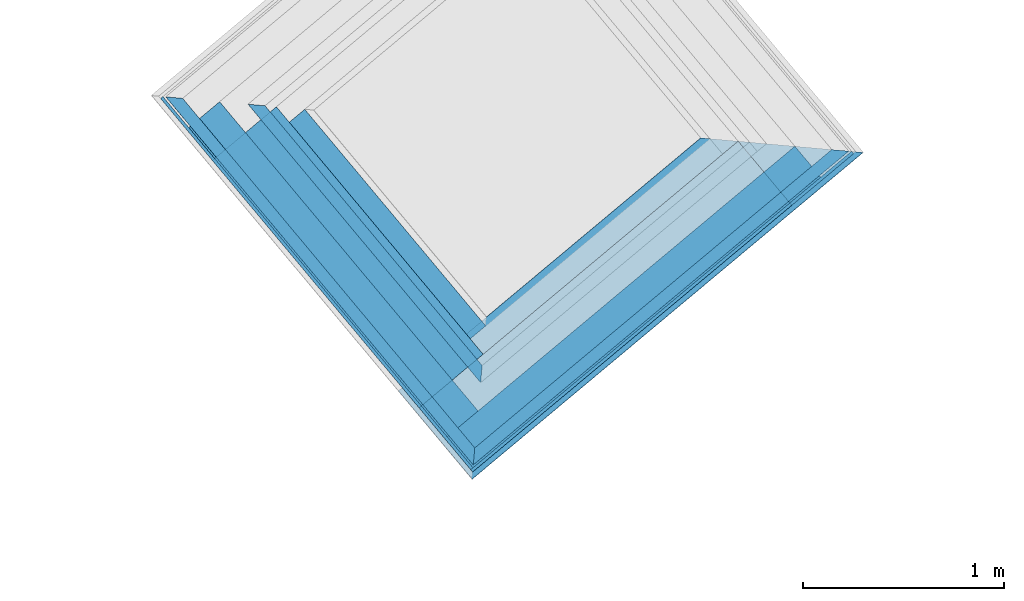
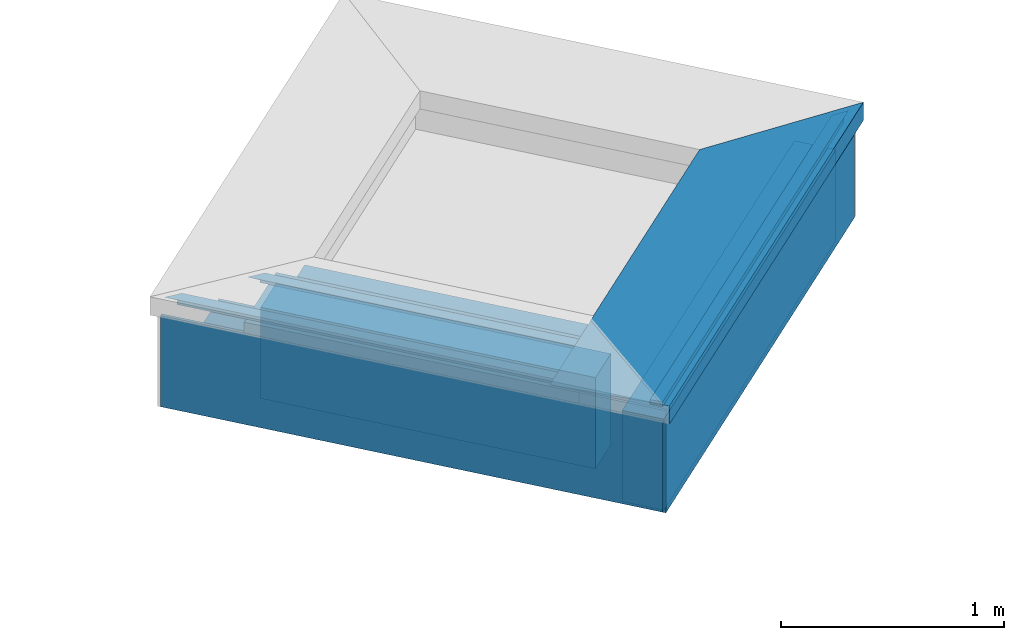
# One storey, part 9 of 13: 13 building element parts, 2 elements without a shape of their own.
"""IFC4 building model written with IfcOpenShell, lengths in metres."""

from ifc_helpers import new_model, entity, si_unit, converted_unit, derived_unit, direction, frame, origin_with_axes, place, context, subcontext, project, spatial, polygons, material, type_object, element, aggregate, save


model = new_model("IFC4")

# Units and contexts
model_context = context("Model", 3, precision=1e-05, world=origin_with_axes(), true_north=direction((0.0, 1.0)))
body_context = subcontext(model_context, "Body", "Model", "MODEL_VIEW")
ifc_project = project(units=[si_unit("LENGTHUNIT", "METRE"), si_unit("AREAUNIT", "SQUARE_METRE"), si_unit("VOLUMEUNIT", "CUBIC_METRE"), converted_unit("PLANEANGLEUNIT", "DEGREE", entity("IfcPlaneAngleMeasure", 0.0174532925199), si_unit("PLANEANGLEUNIT", "RADIAN"), dimensions=[0, 0, 0, 0, 0, 0, 0]), converted_unit("TIMEUNIT", "Year", entity("IfcTimeMeasure", 31556926.0), si_unit("TIMEUNIT", "SECOND"), dimensions=[0, 0, 1, 0, 0, 0, 0]), si_unit("MASSUNIT", "GRAM", prefix="KILO"), si_unit("THERMODYNAMICTEMPERATUREUNIT", "DEGREE_CELSIUS"), si_unit("LUMINOUSINTENSITYUNIT", "LUMEN"), si_unit("ENERGYUNIT", "JOULE", prefix="MEGA"), derived_unit("THERMALCONDUCTANCEUNIT", [(si_unit("POWERUNIT", "WATT"), 1), (si_unit("LENGTHUNIT", "METRE"), -1), (si_unit("THERMODYNAMICTEMPERATUREUNIT", "KELVIN"), -1)]), derived_unit("SPECIFICHEATCAPACITYUNIT", [(si_unit("ENERGYUNIT", "JOULE"), 1), (si_unit("MASSUNIT", "GRAM", prefix="KILO"), -1), (si_unit("THERMODYNAMICTEMPERATUREUNIT", "KELVIN"), -1)]), derived_unit("MASSDENSITYUNIT", [(si_unit("MASSUNIT", "GRAM", prefix="KILO"), 1), (si_unit("VOLUMEUNIT", "CUBIC_METRE"), -1)])], contexts=[model_context])

# Site, building, storey
site_placement = place(None, frame((-0.00153261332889, -0.00661245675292, 0.0), z_axis=(0.0, 0.0, 1.0), x_axis=(1.0, 0.0, 0.0)))
site = spatial("IfcSite", under=ifc_project, at=site_placement, Name="Gelände", CompositionType="ELEMENT")
building_placement = place(site_placement, origin_with_axes())
building = spatial("IfcBuilding", under=site, at=building_placement, Name="Gebäude", CompositionType="ELEMENT")
storey_placement = place(building_placement, frame((0.0, 0.0, 11.84), z_axis=(0.0, 0.0, 1.0), x_axis=(1.0, 0.0, 0.0)))
storey = spatial("IfcBuildingStorey", under=building, at=storey_placement, Name="DA", CompositionType="ELEMENT", Elevation=11.84)

# Wall, building element parts
wall_type = type_object("IfcWallType", Name="Bauteil - Attika 574 x 610", PredefinedType="NOTDEFINED")
wall_1_placement = place(storey_placement, frame((1.33818690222, 24.5040825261, 0.96), z_axis=(0.0, 0.0, 1.0), x_axis=(0.767364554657, 0.641211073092, 0.0)))
wall_1 = element("IfcWall", 1, at=wall_1_placement, inside=storey, type_object=wall_type, Name="Wand-002", PredefinedType="NOTDEFINED")
ifc_material_1 = material(Name="Stahl")
building_element_part_1_placement = place(wall_1_placement, origin_with_axes())
building_element_part_1 = element("IfcBuildingElementPart", 2, at=building_element_part_1_placement, material=ifc_material_1, Name="Stahl", PredefinedType="NOTDEFINED", context=body_context, shape_type="Tessellation", body=[
    polygons([(-0.241515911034, -0.241500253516, 0.510007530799), (-0.241515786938, -0.239585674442, 0.510007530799), (-0.240558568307, -0.240542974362, 0.509050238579), (-0.241515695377, -0.238231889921, 0.51136132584), (-0.241515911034, -0.241500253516, 0.610006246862), (-0.241513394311, -0.202730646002, 0.608602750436), (-0.241515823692, -0.240152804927, 0.608602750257), (-0.24151582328, -0.240146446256, 0.51136132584), (-0.240161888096, -0.238231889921, 0.51136132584), (-0.233302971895, -0.23137340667, 0.518219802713), (2.28105556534, -0.23137340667, 0.518219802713), (2.2879140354, -0.238231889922, 0.511361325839), (2.29022512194, -0.240542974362, 0.509050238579), (2.28926782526, -0.241500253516, 0.510007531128), (2.28791402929, -0.241500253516, 0.511361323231), (2.28982858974, -0.241500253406, 0.51136132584), (2.28982910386, -0.241500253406, 0.519224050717), (2.28983177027, -0.241500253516, 0.559999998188), (2.28983228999, -0.241500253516, 0.567947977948), (2.28983267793, -0.241500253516, 0.573880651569), (2.28983281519, -0.241500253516, 0.575979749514), (2.28983334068, -0.241500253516, 0.584015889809), (2.28983347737, -0.241500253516, 0.586106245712), (2.28983359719, -0.241500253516, 0.587938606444), (2.28983494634, -0.241500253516, 0.608570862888), (2.2898349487, -0.241500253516, 0.608602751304), (2.25241278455, -0.241500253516, 0.608602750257), (2.29118240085, -0.241500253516, 0.610006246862), (-0.239289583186, -0.201849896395, 0.608570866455), (-0.240165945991, -0.202730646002, 0.608602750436), (2.25241285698, -0.202730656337, 0.608602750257), (2.25153201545, -0.201849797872, 0.608570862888), (1.7176313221, 0.332051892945, 0.589243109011), (0.294682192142, 0.332051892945, 0.589243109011), (-0.240168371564, -0.240152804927, 0.608602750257), (-0.240162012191, -0.24014644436, 0.511361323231), (2.25241278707, -0.240152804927, 0.608602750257), (2.28983495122, -0.240152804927, 0.608602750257), (2.28983494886, -0.240152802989, 0.608570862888), (2.28983359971, -0.240151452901, 0.587938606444), (2.28983347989, -0.240151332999, 0.586106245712), (2.2898333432, -0.240151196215, 0.584015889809), (2.28983281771, -0.240150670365, 0.575979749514), (2.28983268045, -0.240150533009, 0.573880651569), (2.28983229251, -0.2401501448, 0.567947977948), (2.28983177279, -0.240149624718, 0.559999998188), (2.28982910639, -0.240146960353, 0.519224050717), (2.28982859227, -0.24014644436, 0.511361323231), (2.28791403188, -0.24014644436, 0.511361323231), (-0.232298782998, -0.23228372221, 0.519224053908), (2.28196588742, -0.23228372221, 0.519224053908), (2.28105556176, -0.233287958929, 0.518219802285), (-0.239292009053, -0.239276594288, 0.608570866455), (2.25153194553, -0.239276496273, 0.608570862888), (1.71763125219, 0.294630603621, 0.589243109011), (0.330719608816, 0.332051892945, 0.587938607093), (1.7176313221, 0.332051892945, 0.587938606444), (1.7176313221, 0.332051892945, 0.586106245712), (1.7176313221, 0.332051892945, 0.584015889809), (1.7176313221, 0.332051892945, 0.575979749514), (1.7176313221, 0.332051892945, 0.573880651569), (1.7176313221, 0.332051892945, 0.567947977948), (1.7176313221, 0.332051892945, 0.560000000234), (1.7176313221, 0.332051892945, 0.519224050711), (1.7176313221, 0.332051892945, 0.51136132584), (1.7176313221, 0.332051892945, 0.509050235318), (1.7176313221, 0.332051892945, 0.499999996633), (1.7176313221, 0.332051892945, 0.498822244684), (1.7176313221, 0.332051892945, 0.491006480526), (1.71763132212, 0.332051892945, 0.489652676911), (0.330158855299, 0.332051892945, 0.489652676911), (0.328805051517, 0.332051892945, 0.491006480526), (0.330719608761, 0.332051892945, 0.491006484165), (0.330719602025, 0.332051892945, 0.498822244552), (0.330719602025, 0.332051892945, 0.499999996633), (0.330719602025, 0.332051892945, 0.509050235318), (0.330719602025, 0.332051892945, 0.51136132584), (0.330719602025, 0.332051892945, 0.519224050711), (0.330719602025, 0.332051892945, 0.56000000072), (0.330719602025, 0.332051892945, 0.56794797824), (0.330719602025, 0.332051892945, 0.57388065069), (0.330719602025, 0.332051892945, 0.575979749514), (0.330719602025, 0.332051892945, 0.584015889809), (0.330719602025, 0.332051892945, 0.586106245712), (0.330719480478, 0.330698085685, 0.587937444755), (0.330719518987, 0.330665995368, 0.587938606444), (1.71763131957, 0.330698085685, 0.587937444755), (1.71763131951, 0.330665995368, 0.587938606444), (1.71763131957, 0.330698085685, 0.586106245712), (1.71763131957, 0.330698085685, 0.584015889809), (1.71763131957, 0.330698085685, 0.575979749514), (1.71763131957, 0.330698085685, 0.573880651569), (1.71763131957, 0.330698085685, 0.567947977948), (1.71763131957, 0.330698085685, 0.560000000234), (1.71763131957, 0.330698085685, 0.519224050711), (1.71763131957, 0.330698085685, 0.51136132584), (1.71763131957, 0.330698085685, 0.509050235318), (1.71763131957, 0.330698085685, 0.499999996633), (1.71763131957, 0.330698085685, 0.498822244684), (1.71763131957, 0.330698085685, 0.491006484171), (1.71763131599, 0.32878353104, 0.491006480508), (1.71763131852, 0.33013733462, 0.489652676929), (0.331116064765, 0.331094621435, 0.4886954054), (1.71858859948, 0.331094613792, 0.488695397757), (0.328804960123, 0.330698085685, 0.491006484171), (0.328804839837, 0.328783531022, 0.491006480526), (0.330719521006, 0.330698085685, 0.491006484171), (0.330719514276, 0.330698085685, 0.498822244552), (0.330719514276, 0.330698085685, 0.499999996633), (0.330719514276, 0.330698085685, 0.509050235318), (0.330719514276, 0.330698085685, 0.51136132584), (0.330719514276, 0.330698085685, 0.519224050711), (0.330719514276, 0.330698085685, 0.56000000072), (0.330719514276, 0.330698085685, 0.56794797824), (0.330719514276, 0.330698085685, 0.57388065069), (0.330719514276, 0.330698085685, 0.575979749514), (0.330719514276, 0.330698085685, 0.584015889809), (0.330719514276, 0.330698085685, 0.586106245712), (1.71898512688, 0.33069808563, 0.491006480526), (1.71898512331, 0.328783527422, 0.491006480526), (0.321898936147, 0.32187807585, 0.497911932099), (1.72589055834, 0.32187807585, 0.497911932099), (0.321899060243, 0.323792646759, 0.497911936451), (0.322903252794, 0.322882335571, 0.498822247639), (1.7268008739, 0.322882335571, 0.498822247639)], [[[1, 2, 3]], [[4, 2, 1, 5, 6, 7, 8]], [[2, 4, 9, 10, 11, 12, 13, 3]], [[1, 3, 13, 14]], [[5, 1, 14, 15, 16, 17, 18, 19, 20, 21, 22, 23, 24, 25, 26, 27, 28]], [[29, 30, 6, 5, 28, 31, 32, 33, 34]], [[35, 7, 6, 30]], [[36, 8, 7, 35, 37, 38, 39, 40, 41, 42, 43, 44, 45, 46, 47, 48, 49]], [[8, 36, 9, 4]], [[9, 36, 50, 10]], [[10, 50, 51, 11]], [[49, 12, 11, 52]], [[49, 15, 14, 13, 12]], [[15, 49, 48, 16]], [[17, 16, 48, 47]], [[18, 17, 47, 46]], [[19, 18, 46, 45]], [[20, 19, 45, 44]], [[21, 20, 44, 43]], [[21, 43, 42, 22]], [[22, 42, 41, 23]], [[41, 40, 24, 23]], [[24, 40, 39, 25]], [[25, 39, 38, 26]], [[37, 27, 26, 38]], [[27, 37, 31, 28]], [[53, 35, 30, 29]], [[37, 54, 32, 31]], [[32, 54, 55, 33]], [[56, 34, 33, 57, 58, 59, 60, 61, 62, 63, 64, 65, 66, 67, 68, 69, 70, 71, 72, 73, 74, 75, 76, 77, 78, 79, 80, 81, 82, 83, 84]], [[34, 56, 85, 86, 53, 29]], [[35, 53, 54, 37]], [[50, 36, 49, 52, 51]], [[52, 11, 51]], [[53, 86, 85, 87, 88, 55, 54]], [[88, 87, 57, 33, 55]], [[89, 58, 57, 87]], [[90, 59, 58, 89]], [[91, 60, 59, 90]], [[92, 61, 60, 91]], [[93, 62, 61, 92]], [[94, 63, 62, 93]], [[94, 95, 64, 63]], [[95, 96, 65, 64]], [[96, 97, 66, 65]], [[97, 98, 67, 66]], [[98, 99, 68, 67]], [[99, 100, 69, 68]], [[100, 101, 102, 70, 69]], [[103, 71, 70, 104]], [[105, 72, 71, 103, 106]], [[72, 105, 107, 73]], [[108, 74, 73, 107]], [[75, 74, 108, 109]], [[109, 110, 76, 75]], [[110, 111, 77, 76]], [[111, 112, 78, 77]], [[112, 113, 79, 78]], [[80, 79, 113, 114]], [[81, 80, 114, 115]], [[82, 81, 115, 116]], [[83, 82, 116, 117]], [[84, 83, 117, 118]], [[85, 56, 84, 118]], [[109, 108, 107, 100, 99, 98, 97, 96, 95, 94, 93, 92, 91, 90, 89, 87, 85, 118, 117, 116, 115, 114, 113, 112, 111, 110]], [[101, 100, 119, 120]], [[121, 106, 103, 104, 102, 101, 120, 122]], [[70, 102, 104]], [[121, 123, 105, 106]], [[105, 123, 124, 125, 119, 100, 107]], [[122, 120, 119, 125]], [[124, 121, 122, 125]], [[123, 121, 124]]], closed=True),
])
ifc_material_2 = material(Name="Holzwerkstoff")
building_element_part_2_placement = place(wall_1_placement, origin_with_axes())
building_element_part_2 = element("IfcBuildingElementPart", 3, at=building_element_part_2_placement, material=ifc_material_2, Name="Holzwerkstoff", PredefinedType="NOTDEFINED", context=body_context, shape_type="Tessellation", body=[
    polygons([(-0.130133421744, -0.130124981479, 0.584015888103), (-0.189997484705, -0.189984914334, 0.586106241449), (-0.18996373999, 0.330634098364, 0.586106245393), (-0.130103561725, 0.330561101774, 0.584015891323), (1.71912124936, -0.130124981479, 0.584015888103), (1.71904814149, -0.189984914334, 0.586106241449), (-0.240015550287, -0.239999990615, 0.587852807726), (-0.239978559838, 0.330695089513, 0.587852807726), (-0.239975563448, 0.330698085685, 0.587938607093), (1.71898512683, 0.330698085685, 0.587938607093), (1.71904911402, 0.330634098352, 0.586106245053), (1.71912210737, 0.330561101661, 0.584015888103), (1.71940273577, 0.330280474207, 0.575979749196), (1.71947603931, 0.330207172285, 0.573880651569), (1.71968324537, 0.329999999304, 0.567947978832), (0.330021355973, 0.329999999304, 0.567947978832), (0.160131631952, 0.330207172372, 0.573880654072), (0.100021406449, 0.330280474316, 0.575979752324), (0.100006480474, 0.0999999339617, 0.575979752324), (1.71940230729, 0.100000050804, 0.575979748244), (1.71898705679, -0.239999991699, 0.587852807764), (-0.24001255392, -0.239996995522, 0.587938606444), (-0.239292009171, -0.239276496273, 0.608570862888), (2.28895854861, -0.239276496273, 0.608570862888), (1.71898406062, -0.2399969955, 0.587938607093), (1.71947572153, 0.160110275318, 0.573880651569), (0.16012060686, 0.160110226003, 0.573880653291)], [[[1, 2, 3, 4]], [[2, 1, 5, 6]], [[2, 7, 8, 3]], [[3, 8, 9, 10, 11, 12, 13, 14, 15, 16, 17, 18, 4]], [[4, 18, 19, 1]], [[19, 20, 5, 1]], [[12, 11, 6, 5]], [[7, 2, 6, 21]], [[7, 22, 9, 8]], [[9, 23, 24, 10]], [[11, 10, 25, 21, 6]], [[13, 12, 5, 20]], [[26, 14, 13, 20]], [[26, 15, 14]], [[27, 16, 15, 26]], [[17, 16, 27]], [[18, 17, 27, 19]], [[19, 27, 26, 20]], [[22, 7, 21, 25, 24, 23]], [[22, 23, 9]], [[24, 25, 10]]], closed=True),
])
ifc_material_3 = material(Name="Brettschichtholz")
building_element_part_3_placement = place(wall_1_placement, origin_with_axes())
building_element_part_3 = element("IfcBuildingElementPart", 4, at=building_element_part_3_placement, material=ifc_material_3, Name="Brettschichtholz", PredefinedType="NOTDEFINED", context=body_context, shape_type="Tessellation", body=[
    polygons([(-0.21501230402, -0.190124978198, 0.560000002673), (-0.21501391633, -0.214999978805, 0.560000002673), (1.84968219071, -0.214999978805, 0.560000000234), (1.84968223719, -0.190124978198, 0.560000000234), (-0.215013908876, -0.214999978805, 0.519224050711), (-0.21500841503, -0.130124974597, 0.560000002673), (-0.214993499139, 0.0999999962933, 0.560000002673), (-0.214989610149, 0.159999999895, 0.560000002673), (-0.21498701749, 0.200000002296, 0.560000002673), (-0.214987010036, 0.200000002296, 0.519224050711), (-0.215013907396, -0.214999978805, 0.51136132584), (-0.215013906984, -0.214999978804, 0.509050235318), (-0.215013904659, -0.214999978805, 0.50000001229), (1.84968219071, -0.214999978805, 0.499999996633), (1.84968219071, -0.214999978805, 0.509050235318), (1.84968219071, -0.214999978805, 0.51136132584), (1.84968219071, -0.214999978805, 0.519224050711), (1.84968296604, 0.200000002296, 0.519224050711), (1.84968296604, 0.200000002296, 0.560000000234), (1.84968289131, 0.159999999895, 0.560000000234), (1.84968277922, 0.0999999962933, 0.560000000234), (1.84968234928, -0.130124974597, 0.560000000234), (1.84968296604, 0.200000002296, 0.51136132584), (1.84968296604, 0.200000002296, 0.509050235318), (1.84968296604, 0.200000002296, 0.499999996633), (-0.214987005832, 0.200000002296, 0.50000001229), (-0.214987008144, 0.200000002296, 0.509050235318), (-0.214987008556, 0.200000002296, 0.51136132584)], [[[1, 2, 3, 4]], [[5, 2, 1, 6, 7, 8, 9, 10]], [[2, 5, 11, 12, 13, 14, 15, 16, 17, 3]], [[4, 3, 17, 18, 19, 20, 21, 22]], [[6, 1, 4, 22]], [[7, 6, 22, 21]], [[8, 7, 21, 20]], [[9, 8, 20, 19]], [[10, 9, 19, 18, 23, 24, 25, 26, 27, 28]], [[5, 10, 28, 11]], [[11, 28, 27, 12]], [[12, 27, 26, 13]], [[25, 14, 13, 26]], [[24, 15, 14, 25]], [[23, 16, 15, 24]], [[18, 17, 16, 23]]], closed=True),
])
ifc_material_4 = material(Name="EPS 1")
building_element_part_4_placement = place(wall_1_placement, origin_with_axes())
building_element_part_4 = element("IfcBuildingElementPart", 5, at=building_element_part_4_placement, material=ifc_material_4, Name="EPS 1", PredefinedType="NOTDEFINED", context=body_context, shape_type="Tessellation", body=[
    polygons([(-0.199999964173, 2.16659046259e-09, 0.5), (-0.200012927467, -0.19999996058, 0.5), (2.04968221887, -0.19999996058, 0.5), (2.04968259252, 2.16659401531e-09, 0.5), (-0.200012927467, -0.19999996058, 0.498822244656), (-0.199999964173, 2.16659046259e-09, 0.498822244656), (-0.200012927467, -0.19999996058, 0.491006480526), (-0.200012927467, -0.19999996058, 0.488695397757), (-0.200012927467, -0.19999996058, 0.235000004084), (-0.200012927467, -0.19999996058, 0.0), (2.04968221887, -0.19999996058, 0.0), (2.04968221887, -0.19999996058, 0.235000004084), (2.04968221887, -0.19999996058, 0.488695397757), (2.04968221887, -0.19999996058, 0.491006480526), (2.04968221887, -0.19999996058, 0.498822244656), (2.04968259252, 2.16658690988e-09, 0.498822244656), (2.04968259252, 2.16658690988e-09, 0.491006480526), (2.04968259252, 2.16658690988e-09, 0.488695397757), (2.04968259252, 2.16658690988e-09, 0.235000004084), (2.04968259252, 2.16659401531e-09, 0.0), (-0.199999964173, 2.16659046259e-09, 0.0), (-0.199999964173, 2.16659046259e-09, 0.235000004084), (-0.199999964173, 2.16659046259e-09, 0.488695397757), (-0.199999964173, 2.16659046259e-09, 0.491006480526)], [[[1, 2, 3, 4]], [[5, 2, 1, 6]], [[2, 5, 7, 8, 9, 10, 11, 12, 13, 14, 15, 3]], [[4, 3, 15, 16]], [[6, 1, 4, 16, 17, 18, 19, 20, 21, 22, 23, 24]], [[5, 6, 24, 7]], [[7, 24, 23, 8]], [[8, 23, 22, 9]], [[9, 22, 21, 10]], [[10, 21, 20, 11]], [[19, 12, 11, 20]], [[18, 13, 12, 19]], [[17, 14, 13, 18]], [[16, 15, 14, 17]]], closed=True),
])
ifc_material_5 = material(Name="Vollholz")
building_element_part_5_placement = place(wall_1_placement, origin_with_axes())
building_element_part_5 = element("IfcBuildingElementPart", 6, at=building_element_part_5_placement, material=ifc_material_5, Name="Vollholz", PredefinedType="NOTDEFINED", context=body_context, shape_type="Tessellation", body=[
    polygons([(-0.190137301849, -0.190124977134, 0.560000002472), (-0.190094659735, -0.19008233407, 0.567947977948), (-0.19009077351, -0.130124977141, 0.567947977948), (-0.19013341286, -0.130124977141, 0.560000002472), (2.17980721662, -0.190124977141, 0.560000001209), (2.1798072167, -0.19008233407, 0.567947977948), (2.17980721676, -0.190050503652, 0.573880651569), (2.17980721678, -0.190039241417, 0.575979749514), (2.17980721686, -0.189996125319, 0.584015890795), (2.23966714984, -0.189984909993, 0.586106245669), (-0.189997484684, -0.189984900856, 0.586106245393), (-0.190008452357, -0.189996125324, 0.584015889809), (-0.190051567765, -0.190039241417, 0.575979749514), (-0.190062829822, -0.190050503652, 0.573880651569), (-0.19005894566, -0.130124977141, 0.573880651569), (-0.190047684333, -0.130124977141, 0.575979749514), (-0.190004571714, -0.130124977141, 0.584015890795), (2.17980732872, -0.130124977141, 0.584015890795), (2.17980732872, -0.130124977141, 0.575979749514), (2.17980732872, -0.130124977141, 0.573880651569), (2.17980732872, -0.130124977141, 0.567947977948), (2.17980732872, -0.130124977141, 0.560000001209)], [[[1, 2, 3, 4]], [[2, 1, 5, 6, 7, 8, 9, 10, 11, 12, 13, 14]], [[2, 14, 15, 3]], [[4, 3, 15, 16, 17, 18, 19, 20, 21, 22]], [[1, 4, 22, 5]], [[22, 21, 6, 5]], [[21, 20, 7, 6]], [[20, 19, 8, 7]], [[9, 8, 19, 18]], [[9, 18, 10]], [[17, 11, 10, 18]], [[17, 12, 11]], [[16, 13, 12, 17]], [[15, 14, 13, 16]]], closed=True),
])
ifc_material_6 = material(Name="Zementputz")
building_element_part_6_placement = place(wall_1_placement, origin_with_axes())
building_element_part_6 = element("IfcBuildingElementPart", 7, at=building_element_part_6_placement, material=ifc_material_6, Name="Zementputz", PredefinedType="NOTDEFINED", context=body_context, shape_type="Tessellation", body=[
    polygons([(2.24968215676, -0.214999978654, 0.498822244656), (2.24968215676, -0.214999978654, 0.5), (-0.215013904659, -0.214999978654, 0.50000001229), (-0.215013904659, -0.214999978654, 0.0), (2.24968215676, -0.214999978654, 0.0), (2.24968215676, -0.214999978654, 0.235000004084), (2.24968215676, -0.214999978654, 0.488695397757), (2.24968215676, -0.214999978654, 0.491006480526), (2.24968218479, -0.199999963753, 0.5), (2.24968218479, -0.199999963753, 0.498822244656), (-0.215012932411, -0.199999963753, 0.50000001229), (-0.215012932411, -0.199999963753, 0.0), (2.24968218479, -0.199999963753, 0.0), (2.24968218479, -0.199999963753, 0.235000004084), (2.24968218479, -0.199999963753, 0.488695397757), (2.24968218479, -0.199999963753, 0.491006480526)], [[[1, 2, 3, 4, 5, 6, 7, 8]], [[9, 2, 1, 10]], [[2, 9, 11, 3]], [[12, 4, 3, 11]], [[13, 5, 4, 12]], [[14, 6, 5, 13]], [[15, 7, 6, 14]], [[16, 8, 7, 15]], [[10, 1, 8, 16]], [[9, 10, 16, 15, 14, 13, 12, 11]]], closed=True),
])
aggregate(wall_1, [building_element_part_1, building_element_part_2, building_element_part_3, building_element_part_4, building_element_part_5, building_element_part_6])

wall_2_placement = place(storey_placement, frame((1.33818690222, 24.5040825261, 0.96), z_axis=(0.0, 0.0, 1.0), x_axis=(-0.641161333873, 0.767406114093, 0.0)))
wall_2 = element("IfcWall", 8, at=wall_2_placement, inside=storey, type_object=wall_type, Name="Wand-002", PredefinedType="NOTDEFINED")
building_element_part_7_placement = place(wall_2_placement, origin_with_axes())
building_element_part_7 = element("IfcBuildingElementPart", 9, at=building_element_part_7_placement, material=ifc_material_6, Name="Zementputz", PredefinedType="NOTDEFINED", context=body_context, shape_type="Tessellation", body=[
    polygons([(-0.200013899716, 0.214999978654, 0.5), (-0.200012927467, 0.199999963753, 0.5), (2.2011356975, 0.199999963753, 0.5), (2.20113475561, 0.214999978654, 0.5), (-0.200012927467, 0.199999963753, 0.498822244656), (-0.200013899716, 0.214999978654, 0.498822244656), (-0.200012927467, 0.199999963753, 0.491006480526), (-0.200012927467, 0.199999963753, 0.488695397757), (-0.200012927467, 0.199999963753, 0.235000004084), (-0.200012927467, 0.199999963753, 0.0), (2.2011356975, 0.199999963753, 0.0), (2.2011356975, 0.199999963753, 0.235000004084), (2.2011356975, 0.199999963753, 0.488695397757), (2.2011356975, 0.199999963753, 0.491006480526), (2.2011356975, 0.199999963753, 0.498822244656), (2.20113475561, 0.214999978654, 0.498822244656), (2.20113475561, 0.214999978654, 0.491006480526), (2.20113475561, 0.214999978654, 0.488695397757), (2.20113475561, 0.214999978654, 0.235000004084), (2.20113475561, 0.214999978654, 0.0), (-0.200013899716, 0.214999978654, 0.0), (-0.200013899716, 0.214999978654, 0.235000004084), (-0.200013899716, 0.214999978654, 0.488695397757), (-0.200013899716, 0.214999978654, 0.491006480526)], [[[1, 2, 3, 4]], [[5, 2, 1, 6]], [[2, 5, 7, 8, 9, 10, 11, 12, 13, 14, 15, 3]], [[4, 3, 15, 16]], [[6, 1, 4, 16, 17, 18, 19, 20, 21, 22, 23, 24]], [[5, 6, 24, 7]], [[7, 24, 23, 8]], [[8, 23, 22, 9]], [[9, 22, 21, 10]], [[10, 21, 20, 11]], [[19, 12, 11, 20]], [[18, 13, 12, 19]], [[17, 14, 13, 18]], [[16, 15, 14, 17]]], closed=True),
])
building_element_part_8_placement = place(wall_2_placement, origin_with_axes())
building_element_part_8 = element("IfcBuildingElementPart", 10, at=building_element_part_8_placement, material=ifc_material_5, Name="Vollholz", PredefinedType="NOTDEFINED", context=body_context, shape_type="Tessellation", body=[
    polygons([(2.13126133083, 0.190124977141, 0.560000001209), (2.13126509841, 0.130124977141, 0.560000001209), (-0.130133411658, 0.130124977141, 0.560000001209), (-0.130137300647, 0.190124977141, 0.560000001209), (2.13126133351, 0.19008233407, 0.567947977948), (2.13126509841, 0.130124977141, 0.567947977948), (2.13126509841, 0.130124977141, 0.573880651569), (2.13126509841, 0.130124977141, 0.575979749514), (2.13126509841, 0.130124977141, 0.584015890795), (-0.130133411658, 0.130124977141, 0.584015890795), (-0.130133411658, 0.130124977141, 0.575979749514), (-0.130133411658, 0.130124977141, 0.573880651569), (-0.130133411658, 0.130124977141, 0.567947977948), (-0.130137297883, 0.19008233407, 0.567947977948), (-0.13013729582, 0.190050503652, 0.573880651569), (-0.13013729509, 0.190039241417, 0.575979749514), (-0.130137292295, 0.189996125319, 0.584015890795), (-0.189997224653, 0.189984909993, 0.586106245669), (2.19112153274, 0.189984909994, 0.586106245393), (2.13126133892, 0.189996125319, 0.584015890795), (2.13126133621, 0.190039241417, 0.575979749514), (2.13126133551, 0.190050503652, 0.573880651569)], [[[1, 2, 3, 4]], [[1, 5, 6, 2]], [[2, 6, 7, 8, 9, 10, 11, 12, 13, 3]], [[14, 4, 3, 13]], [[5, 1, 4, 14, 15, 16, 17, 18, 19, 20, 21, 22]], [[5, 22, 7, 6]], [[22, 21, 8, 7]], [[21, 20, 9, 8]], [[9, 19, 18, 10]], [[17, 16, 11, 10]], [[16, 15, 12, 11]], [[15, 14, 13, 12]], [[18, 17, 10]], [[9, 20, 19]]], closed=True),
])
building_element_part_9_placement = place(wall_2_placement, origin_with_axes())
building_element_part_9 = element("IfcBuildingElementPart", 11, at=building_element_part_9_placement, material=ifc_material_4, Name="EPS 1", PredefinedType="NOTDEFINED", context=body_context, shape_type="Tessellation", body=[
    polygons([(-1.2961127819e-05, 0.19999996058, 0.5), (2.16672901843e-09, -2.16659046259e-09, 0.5), (2.00114828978, -2.16659401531e-09, 0.5), (2.00113573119, 0.19999996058, 0.5), (2.16672901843e-09, -2.16659046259e-09, 0.498822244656), (-1.2961127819e-05, 0.19999996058, 0.498822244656), (2.16672546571e-09, -2.16659046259e-09, 0.491006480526), (2.16672546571e-09, -2.16659046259e-09, 0.488695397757), (2.16672546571e-09, -2.16659046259e-09, 0.235000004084), (2.16672546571e-09, -2.16659046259e-09, 0.0), (2.00114828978, -2.16659046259e-09, 0.0), (2.00114828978, -2.16659046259e-09, 0.235000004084), (2.00114828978, -2.16659046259e-09, 0.488695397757), (2.00114828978, -2.16659046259e-09, 0.491006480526), (2.00114828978, -2.16659046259e-09, 0.498822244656), (2.00113573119, 0.19999996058, 0.498822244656), (2.00113573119, 0.19999996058, 0.491006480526), (2.00113573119, 0.19999996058, 0.488695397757), (2.00113573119, 0.19999996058, 0.235000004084), (2.00113573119, 0.19999996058, 0.0), (-1.2961127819e-05, 0.19999996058, 0.0), (-1.2961127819e-05, 0.19999996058, 0.235000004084), (-1.2961127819e-05, 0.19999996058, 0.488695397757), (-1.2961127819e-05, 0.19999996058, 0.491006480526)], [[[1, 2, 3, 4]], [[5, 2, 1, 6]], [[2, 5, 7, 8, 9, 10, 11, 12, 13, 14, 15, 3]], [[4, 3, 15, 16]], [[6, 1, 4, 16, 17, 18, 19, 20, 21, 22, 23, 24]], [[5, 6, 24, 7]], [[7, 24, 23, 8]], [[8, 23, 22, 9]], [[9, 22, 21, 10]], [[10, 21, 20, 11]], [[19, 12, 11, 20]], [[18, 13, 12, 19]], [[17, 14, 13, 18]], [[16, 15, 14, 17]]], closed=True),
])
building_element_part_10_placement = place(wall_2_placement, origin_with_axes())
building_element_part_10 = element("IfcBuildingElementPart", 12, at=building_element_part_10_placement, material=ifc_material_3, Name="Brettschichtholz", PredefinedType="NOTDEFINED", context=body_context, shape_type="Tessellation", body=[
    polygons([(0.200010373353, -0.159999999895, 0.560000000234), (0.200012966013, -0.200000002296, 0.560000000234), (1.80116084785, -0.200000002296, 0.560000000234), (1.80115833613, -0.159999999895, 0.560000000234), (0.200012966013, -0.200000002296, 0.519224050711), (0.200006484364, -0.0999999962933, 0.560000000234), (0.199991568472, 0.130124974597, 0.560000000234), (0.199987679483, 0.190124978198, 0.560000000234), (0.199986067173, 0.214999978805, 0.560000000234), (0.199986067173, 0.214999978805, 0.519224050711), (0.200012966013, -0.200000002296, 0.51136132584), (0.200012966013, -0.200000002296, 0.509050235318), (0.200012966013, -0.200000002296, 0.499999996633), (1.80116084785, -0.200000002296, 0.499999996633), (1.80116084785, -0.200000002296, 0.509050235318), (1.80116084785, -0.200000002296, 0.51136132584), (1.80116084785, -0.200000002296, 0.519224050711), (1.80113478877, 0.214999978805, 0.519224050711), (1.80113478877, 0.214999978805, 0.560000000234), (1.80113635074, 0.190124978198, 0.560000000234), (1.80114011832, 0.130124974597, 0.560000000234), (1.80115456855, -0.0999999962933, 0.560000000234), (1.80113478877, 0.214999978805, 0.51136132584), (1.80113478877, 0.214999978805, 0.509050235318), (1.80113478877, 0.214999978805, 0.499999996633), (0.199986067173, 0.214999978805, 0.499999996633), (0.199986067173, 0.214999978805, 0.509050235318), (0.199986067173, 0.214999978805, 0.51136132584)], [[[1, 2, 3, 4]], [[5, 2, 1, 6, 7, 8, 9, 10]], [[2, 5, 11, 12, 13, 14, 15, 16, 17, 3]], [[4, 3, 17, 18, 19, 20, 21, 22]], [[6, 1, 4, 22]], [[7, 6, 22, 21]], [[8, 7, 21, 20]], [[9, 8, 20, 19]], [[10, 9, 19, 18, 23, 24, 25, 26, 27, 28]], [[5, 10, 28, 11]], [[11, 28, 27, 12]], [[12, 27, 26, 13]], [[13, 26, 25, 14]], [[24, 15, 14, 25]], [[23, 16, 15, 24]], [[18, 17, 16, 23]]], closed=True),
])
ifc_material_7 = material(Name="Stahlbeton Wand Garage")
building_element_part_11_placement = place(wall_2_placement, origin_with_axes())
building_element_part_11 = element("IfcBuildingElementPart", 13, at=building_element_part_11_placement, material=ifc_material_7, Name="Stahlbeton Wand Garage", PredefinedType="NOTDEFINED", context=body_context, shape_type="Tessellation", body=[
    polygons([(0.20000000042, 0.0, 0.5), (0.200012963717, -0.2, 0.5), (1.80116085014, -0.2, 0.5), (1.80114829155, 0.0, 0.5), (0.200012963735, -0.2, 0.498822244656), (0.200000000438, 0.0, 0.498822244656), (0.200012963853, -0.2, 0.491006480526), (0.200012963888, -0.2, 0.488695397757), (0.200012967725, -0.200000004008, 0.235000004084), (1.80116084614, -0.200000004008, 0.235000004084), (1.80116084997, -0.2, 0.488695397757), (1.80116085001, -0.2, 0.491006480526), (1.80116085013, -0.2, 0.498822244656), (1.80114829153, 0.0, 0.498822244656), (1.80114829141, 0.0, 0.491006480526), (1.80114829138, 0.0, 0.488695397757), (1.80114828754, 0.0, 0.235000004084), (1.80114829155, 0.0, 0.0), (0.20000000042, 0.0, 0.0), (0.200000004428, 0.0, 0.235000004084), (0.200000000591, 0.0, 0.488695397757), (0.200000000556, 0.0, 0.491006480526), (0.200012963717, -0.2, 0.0), (1.80116085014, -0.2, 0.0)], [[[1, 2, 3, 4]], [[5, 2, 1, 6]], [[2, 5, 7, 8, 9, 10, 11, 12, 13, 3]], [[4, 3, 13, 14]], [[6, 1, 4, 14, 15, 16, 17, 18, 19, 20, 21, 22]], [[5, 6, 22, 7]], [[7, 22, 21, 8]], [[8, 21, 20, 9]], [[9, 23, 24, 10]], [[16, 11, 10, 17]], [[15, 12, 11, 16]], [[14, 13, 12, 15]], [[17, 10, 24, 18]], [[23, 19, 18, 24]], [[9, 20, 19, 23]]], closed=True),
])
building_element_part_12_placement = place(wall_2_placement, origin_with_axes())
building_element_part_12 = element("IfcBuildingElementPart", 14, at=building_element_part_12_placement, material=ifc_material_5, Name="Vollholz", PredefinedType="NOTDEFINED", context=body_context, shape_type="Tessellation", body=[
    polygons([(0.100006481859, -0.100000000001, 0.575979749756), (0.160120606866, -0.160110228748, 0.573880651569), (1.84104811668, -0.160110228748, 0.573880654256), (1.90115457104, -0.1, 0.575979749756), (0.160116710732, -0.1, 0.573880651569), (0.160010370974, -0.16, 0.560000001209), (1.8411583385, -0.16, 0.560000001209), (1.84109522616, -0.160063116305, 0.567947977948), (0.16007349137, -0.160063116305, 0.567947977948), (1.84104434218, -0.1, 0.573880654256), (1.84109145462, -0.1, 0.567947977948), (1.84115457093, -0.1, 0.560000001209), (0.160006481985, -0.1, 0.560000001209), (0.16006959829, -0.1, 0.567947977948)], [[[1, 2, 3, 4]], [[5, 2, 1]], [[6, 7, 8, 3, 2, 9]], [[3, 10, 4]], [[5, 1, 4, 10, 11, 12, 13, 14]], [[2, 5, 14, 9]], [[6, 13, 12, 7]], [[8, 7, 12, 11]], [[11, 10, 3, 8]], [[13, 6, 9, 14]]], closed=True),
])
building_element_part_13_placement = place(wall_2_placement, origin_with_axes())
building_element_part_13 = element("IfcBuildingElementPart", 15, at=building_element_part_13_placement, material=ifc_material_4, Name="EPS 1", PredefinedType="NOTDEFINED", context=body_context, shape_type="Tessellation", body=[
    polygons([(0.300012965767, -0.200000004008, 0.560000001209), (0.300019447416, -0.30000000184, 0.560000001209), (1.7011671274, -0.30000000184, 0.560000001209), (1.70116084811, -0.200000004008, 0.560000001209), (0.300019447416, -0.30000000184, 0.519224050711), (0.300012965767, -0.200000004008, 0.519224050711), (0.300019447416, -0.30000000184, 0.51136132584), (0.300019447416, -0.30000000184, 0.509050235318), (0.300019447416, -0.30000000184, 0.499999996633), (0.300019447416, -0.30000000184, 0.498822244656), (0.300019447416, -0.30000000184, 0.491006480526), (0.300019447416, -0.30000000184, 0.488695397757), (0.300019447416, -0.30000000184, 0.235000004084), (1.7011671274, -0.30000000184, 0.235000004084), (1.7011671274, -0.30000000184, 0.488695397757), (1.7011671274, -0.30000000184, 0.491006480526), (1.7011671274, -0.30000000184, 0.498822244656), (1.7011671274, -0.30000000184, 0.499999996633), (1.7011671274, -0.30000000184, 0.509050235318), (1.7011671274, -0.30000000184, 0.51136132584), (1.7011671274, -0.30000000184, 0.519224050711), (1.70116084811, -0.200000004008, 0.519224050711), (1.70116084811, -0.200000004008, 0.51136132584), (1.70116084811, -0.200000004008, 0.509050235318), (1.70116084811, -0.200000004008, 0.499999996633), (1.70116084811, -0.200000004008, 0.498822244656), (1.70116084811, -0.200000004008, 0.491006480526), (1.70116084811, -0.200000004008, 0.488695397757), (1.70116084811, -0.200000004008, 0.235000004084), (0.300012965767, -0.200000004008, 0.235000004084), (0.300012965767, -0.200000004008, 0.488695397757), (0.300012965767, -0.200000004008, 0.491006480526), (0.300012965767, -0.200000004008, 0.498822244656), (0.300012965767, -0.200000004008, 0.499999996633), (0.300012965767, -0.200000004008, 0.509050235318), (0.300012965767, -0.200000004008, 0.51136132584)], [[[1, 2, 3, 4]], [[5, 2, 1, 6]], [[2, 5, 7, 8, 9, 10, 11, 12, 13, 14, 15, 16, 17, 18, 19, 20, 21, 3]], [[4, 3, 21, 22]], [[6, 1, 4, 22, 23, 24, 25, 26, 27, 28, 29, 30, 31, 32, 33, 34, 35, 36]], [[5, 6, 36, 7]], [[7, 36, 35, 8]], [[8, 35, 34, 9]], [[9, 34, 33, 10]], [[10, 33, 32, 11]], [[11, 32, 31, 12]], [[12, 31, 30, 13]], [[13, 30, 29, 14]], [[28, 15, 14, 29]], [[27, 16, 15, 28]], [[26, 17, 16, 27]], [[25, 18, 17, 26]], [[24, 19, 18, 25]], [[23, 20, 19, 24]], [[22, 21, 20, 23]]], closed=True),
])
aggregate(wall_2, [building_element_part_7, building_element_part_8, building_element_part_9, building_element_part_10, building_element_part_11, building_element_part_12, building_element_part_13])

save(model, "model.ifc")
